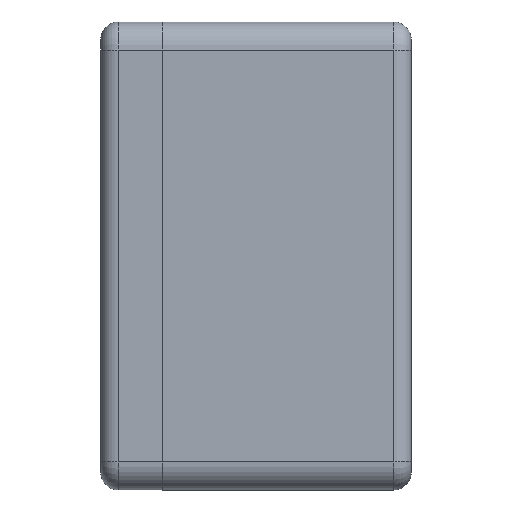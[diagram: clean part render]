
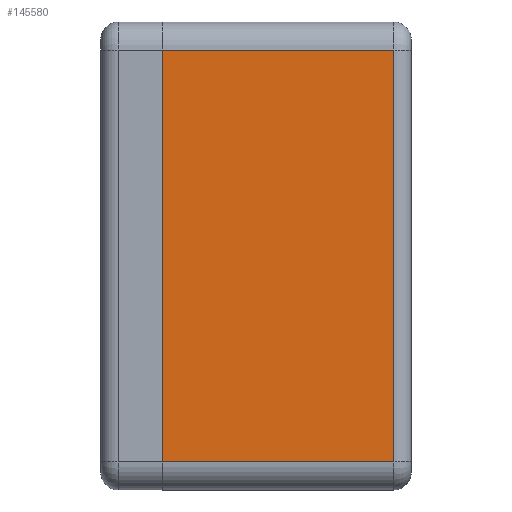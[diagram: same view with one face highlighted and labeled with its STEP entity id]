
A CAD part, left-side view. The second image highlights one B-rep face of the part: STEP entity #145580.
In plain terms, the highlighted planar face has unit normal (-1, 0, 0).
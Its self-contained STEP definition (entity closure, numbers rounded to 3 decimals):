
#3019 = VECTOR ( 'NONE', #120809, 1000. ) ;
#5624 = EDGE_CURVE ( 'NONE', #85048, #160438, #181779, .T. ) ;
#6956 = CARTESIAN_POINT ( 'NONE',  ( -408.275, 0., -303.487 ) ) ;
#9652 = CARTESIAN_POINT ( 'NONE',  ( -408.275, -340.995, -303.487 ) ) ;
#11475 = CARTESIAN_POINT ( 'NONE',  ( -408.275, -340.995, 303.487 ) ) ;
#12589 = PLANE ( 'NONE',  #137678 ) ;
#17292 = FACE_OUTER_BOUND ( 'NONE', #139134, .T. ) ;
#18217 = LINE ( 'NONE', #217189, #102004 ) ;
#30276 = ORIENTED_EDGE ( 'NONE', *, *, #5624, .T. ) ;
#35850 = LINE ( 'NONE', #203525, #227694 ) ;
#36225 = DIRECTION ( 'NONE',  ( 0., 1., 0. ) ) ;
#47758 = CARTESIAN_POINT ( 'NONE',  ( -408.275, -6.35, -303.487 ) ) ;
#62615 = EDGE_CURVE ( 'NONE', #85048, #178015, #172396, .T. ) ;
#78702 = ORIENTED_EDGE ( 'NONE', *, *, #161430, .F. ) ;
#85048 = VERTEX_POINT ( 'NONE', #219783 ) ;
#93244 = DIRECTION ( 'NONE',  ( 0., 0., 1. ) ) ;
#102004 = VECTOR ( 'NONE', #36225, 1000. ) ;
#105062 = CARTESIAN_POINT ( 'NONE',  ( -408.275, 0., 303.487 ) ) ;
#108346 = DIRECTION ( 'NONE',  ( 0., 0., 1. ) ) ;
#113659 = ORIENTED_EDGE ( 'NONE', *, *, #214655, .T. ) ;
#120809 = DIRECTION ( 'NONE',  ( 0., 1., 0. ) ) ;
#136651 = ORIENTED_EDGE ( 'NONE', *, *, #62615, .F. ) ;
#137678 = AXIS2_PLACEMENT_3D ( 'NONE', #234255, #199474, #108346 ) ;
#138986 = DIRECTION ( 'NONE',  ( 0., 0., 1. ) ) ;
#139134 = EDGE_LOOP ( 'NONE', ( #136651, #30276, #113659, #78702 ) ) ;
#142247 = VECTOR ( 'NONE', #138986, 1000. ) ;
#145580 = ADVANCED_FACE ( 'NONE', ( #17292 ), #12589, .T. ) ;
#160438 = VERTEX_POINT ( 'NONE', #11475 ) ;
#161430 = EDGE_CURVE ( 'NONE', #178015, #212860, #35850, .T. ) ;
#172396 = LINE ( 'NONE', #47758, #3019 ) ;
#178015 = VERTEX_POINT ( 'NONE', #6956 ) ;
#181779 = LINE ( 'NONE', #9652, #142247 ) ;
#199474 = DIRECTION ( 'NONE',  ( -1., 0., 0. ) ) ;
#203525 = CARTESIAN_POINT ( 'NONE',  ( -408.275, 0., -303.487 ) ) ;
#212860 = VERTEX_POINT ( 'NONE', #105062 ) ;
#214655 = EDGE_CURVE ( 'NONE', #160438, #212860, #18217, .T. ) ;
#217189 = CARTESIAN_POINT ( 'NONE',  ( -408.275, -6.35, 303.487 ) ) ;
#219783 = CARTESIAN_POINT ( 'NONE',  ( -408.275, -340.995, -303.487 ) ) ;
#227694 = VECTOR ( 'NONE', #93244, 1000. ) ;
#234255 = CARTESIAN_POINT ( 'NONE',  ( -408.275, -6.35, -303.487 ) ) ;
